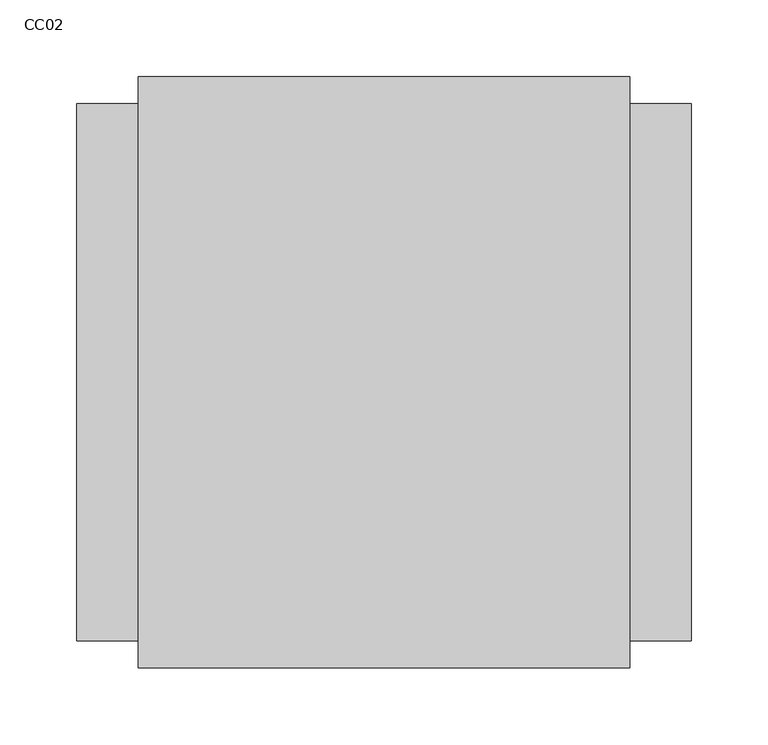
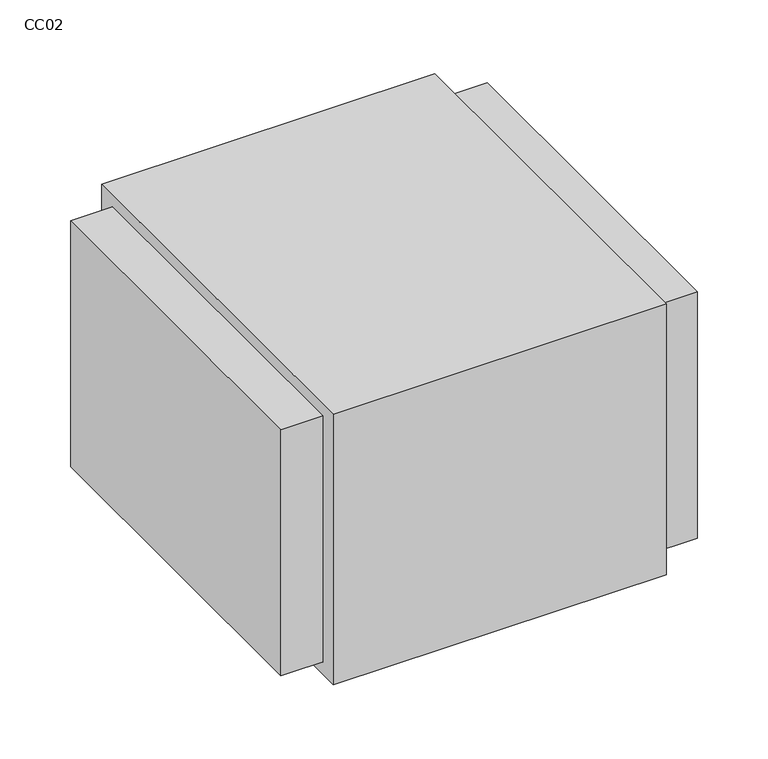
"""IFC4 building model written with IfcOpenShell, lengths in millimetres: damper geometry, ZYR_03.06.07 Comporta Talla Foc Rectangular CC : CC02."""

from ifc_helpers import new_model, si_unit, frame, origin, place, context, project, spatial, polyline, outline, extrude, source, transform, mapped, element, save


def cc02_933d7e99(model_context):
    return source(origin(), model_context, "Body", "SweptSolid", [
        extrude(outline(polyline([(200.0, 175.0), (200.0, -175.0), (-200.0, -175.0), (-200.0, 175.0), (200.0, 175.0)])), frame((0.0, 0.0, -125.0), z_axis=(0.0, 0.0, 1.0), x_axis=(1.0, 0.0, 0.0)), (0.0, 0.0, 1.0), 250.0),
        extrude(outline(polyline([(192.5, 137.5), (192.5, -137.5), (-192.5, -137.5), (-192.5, 137.5), (192.5, 137.5)]), holes=[polyline([(175.0, 125.0), (-175.0, 125.0), (-175.0, -125.0), (175.0, -125.0), (175.0, 125.0)])]), frame((-160.0, 0.0, 0.0), z_axis=(1.0, 0.0, 0.0), x_axis=(0.0, 1.0, 0.0)), (0.0, 0.0, 1.0), 320.0),
    ])


if __name__ == "__main__":
    model = new_model("IFC4")
    model_context = context("Model", 3, world=origin())
    ifc_project = project(units=[si_unit("LENGTHUNIT", "METRE", prefix="MILLI")], contexts=[model_context])
    site = spatial("IfcSite", under=ifc_project)
    building = spatial("IfcBuilding", under=site)
    placement = place(None, origin())
    cc02_shape = cc02_933d7e99(model_context)
    element("IfcDamper", 1, ObjectType="ZYR_03.06.07 Comporta Talla Foc Rectangular CC : CC02", at=placement, inside=building, context=model_context, shape_type="MappedRepresentation", body=[
        mapped(cc02_shape, transform((0.0, 0.0, 0.0), x_axis=(1.0, 0.0, 0.0), y_axis=(0.0, 1.0, 0.0), z_axis=(0.0, 0.0, 1.0))),
    ])
    save(model, "model.ifc")
